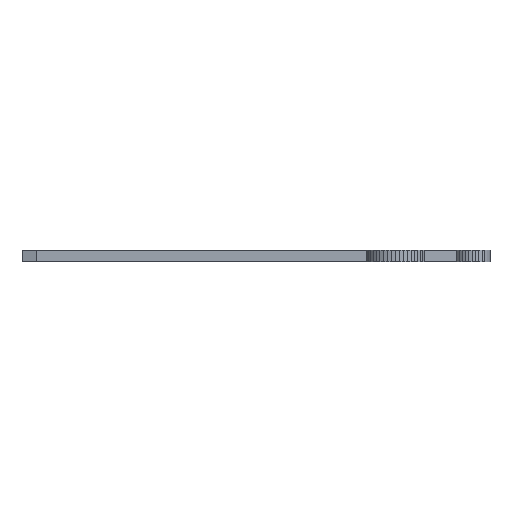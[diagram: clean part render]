
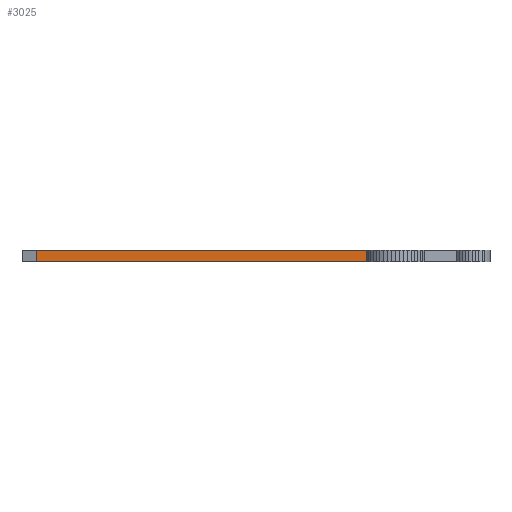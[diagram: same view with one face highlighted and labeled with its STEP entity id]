
A CAD part, left-side view. The second image highlights one B-rep face of the part: STEP entity #3025.
In plain terms, the highlighted planar face has unit normal (-1, 0.021, 0).
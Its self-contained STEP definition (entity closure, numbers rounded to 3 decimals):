
#72 = PLANE('',#73);
#73 = AXIS2_PLACEMENT_3D('',#74,#75,#76);
#74 = CARTESIAN_POINT('',(0.,-2.207,2.4));
#75 = DIRECTION('',(-0.,-0.,-1.));
#76 = DIRECTION('',(-1.,0.,0.));
#126 = PLANE('',#127);
#127 = AXIS2_PLACEMENT_3D('',#128,#129,#130);
#128 = CARTESIAN_POINT('',(0.,-2.207,
    0.));
#129 = DIRECTION('',(-0.,-0.,-1.));
#130 = DIRECTION('',(-1.,0.,0.));
#2917 = PLANE('',#2918);
#2918 = AXIS2_PLACEMENT_3D('',#2919,#2920,#2921);
#2919 = CARTESIAN_POINT('',(-3.25,-23.496,0.));
#2920 = DIRECTION('',(-0.427,0.904,0.));
#2921 = DIRECTION('',(0.904,0.427,0.));
#2955 = VERTEX_POINT('',#2956);
#2956 = CARTESIAN_POINT('',(-2.371,-23.08,2.4));
#2977 = EDGE_CURVE('',#2978,#2955,#2980,.T.);
#2978 = VERTEX_POINT('',#2979);
#2979 = CARTESIAN_POINT('',(-2.371,-23.08,0.));
#2980 = SURFACE_CURVE('',#2981,(#2985,#2992),.PCURVE_S1.);
#2981 = LINE('',#2982,#2983);
#2982 = CARTESIAN_POINT('',(-2.371,-23.08,0.));
#2983 = VECTOR('',#2984,1.);
#2984 = DIRECTION('',(0.,0.,1.));
#2985 = PCURVE('',#2917,#2986);
#2986 = DEFINITIONAL_REPRESENTATION('',(#2987),#2991);
#2987 = LINE('',#2988,#2989);
#2988 = CARTESIAN_POINT('',(0.972,0.));
#2989 = VECTOR('',#2990,1.);
#2990 = DIRECTION('',(0.,-1.));
#2991 = ( GEOMETRIC_REPRESENTATION_CONTEXT(2) 
PARAMETRIC_REPRESENTATION_CONTEXT() REPRESENTATION_CONTEXT('2D SPACE',''
  ) );
#2992 = PCURVE('',#2993,#2998);
#2993 = PLANE('',#2994);
#2994 = AXIS2_PLACEMENT_3D('',#2995,#2996,#2997);
#2995 = CARTESIAN_POINT('',(-2.371,-23.08,0.));
#2996 = DIRECTION('',(-1.,0.021,0.));
#2997 = DIRECTION('',(0.021,1.,0.));
#2998 = DEFINITIONAL_REPRESENTATION('',(#2999),#3003);
#2999 = LINE('',#3000,#3001);
#3000 = CARTESIAN_POINT('',(0.,0.));
#3001 = VECTOR('',#3002,1.);
#3002 = DIRECTION('',(0.,-1.));
#3003 = ( GEOMETRIC_REPRESENTATION_CONTEXT(2) 
PARAMETRIC_REPRESENTATION_CONTEXT() REPRESENTATION_CONTEXT('2D SPACE',''
  ) );
#3025 = ADVANCED_FACE('',(#3026),#2993,.T.);
#3026 = FACE_BOUND('',#3027,.T.);
#3027 = EDGE_LOOP('',(#3028,#3029,#3052,#3080));
#3028 = ORIENTED_EDGE('',*,*,#2977,.T.);
#3029 = ORIENTED_EDGE('',*,*,#3030,.T.);
#3030 = EDGE_CURVE('',#2955,#3031,#3033,.T.);
#3031 = VERTEX_POINT('',#3032);
#3032 = CARTESIAN_POINT('',(-0.9,45.875,2.4));
#3033 = SURFACE_CURVE('',#3034,(#3038,#3045),.PCURVE_S1.);
#3034 = LINE('',#3035,#3036);
#3035 = CARTESIAN_POINT('',(-2.371,-23.08,2.4));
#3036 = VECTOR('',#3037,1.);
#3037 = DIRECTION('',(0.021,1.,0.));
#3038 = PCURVE('',#2993,#3039);
#3039 = DEFINITIONAL_REPRESENTATION('',(#3040),#3044);
#3040 = LINE('',#3041,#3042);
#3041 = CARTESIAN_POINT('',(0.,-2.4));
#3042 = VECTOR('',#3043,1.);
#3043 = DIRECTION('',(1.,0.));
#3044 = ( GEOMETRIC_REPRESENTATION_CONTEXT(2) 
PARAMETRIC_REPRESENTATION_CONTEXT() REPRESENTATION_CONTEXT('2D SPACE',''
  ) );
#3045 = PCURVE('',#72,#3046);
#3046 = DEFINITIONAL_REPRESENTATION('',(#3047),#3051);
#3047 = LINE('',#3048,#3049);
#3048 = CARTESIAN_POINT('',(2.371,-20.874));
#3049 = VECTOR('',#3050,1.);
#3050 = DIRECTION('',(-0.021,1.));
#3051 = ( GEOMETRIC_REPRESENTATION_CONTEXT(2) 
PARAMETRIC_REPRESENTATION_CONTEXT() REPRESENTATION_CONTEXT('2D SPACE',''
  ) );
#3052 = ORIENTED_EDGE('',*,*,#3053,.F.);
#3053 = EDGE_CURVE('',#3054,#3031,#3056,.T.);
#3054 = VERTEX_POINT('',#3055);
#3055 = CARTESIAN_POINT('',(-0.9,45.875,0.));
#3056 = SURFACE_CURVE('',#3057,(#3061,#3068),.PCURVE_S1.);
#3057 = LINE('',#3058,#3059);
#3058 = CARTESIAN_POINT('',(-0.9,45.875,0.));
#3059 = VECTOR('',#3060,1.);
#3060 = DIRECTION('',(0.,0.,1.));
#3061 = PCURVE('',#2993,#3062);
#3062 = DEFINITIONAL_REPRESENTATION('',(#3063),#3067);
#3063 = LINE('',#3064,#3065);
#3064 = CARTESIAN_POINT('',(68.971,0.));
#3065 = VECTOR('',#3066,1.);
#3066 = DIRECTION('',(0.,-1.));
#3067 = ( GEOMETRIC_REPRESENTATION_CONTEXT(2) 
PARAMETRIC_REPRESENTATION_CONTEXT() REPRESENTATION_CONTEXT('2D SPACE',''
  ) );
#3068 = PCURVE('',#3069,#3074);
#3069 = PLANE('',#3070);
#3070 = AXIS2_PLACEMENT_3D('',#3071,#3072,#3073);
#3071 = CARTESIAN_POINT('',(-0.9,45.875,0.));
#3072 = DIRECTION('',(-0.958,0.287,0.));
#3073 = DIRECTION('',(0.287,0.958,0.));
#3074 = DEFINITIONAL_REPRESENTATION('',(#3075),#3079);
#3075 = LINE('',#3076,#3077);
#3076 = CARTESIAN_POINT('',(0.,0.));
#3077 = VECTOR('',#3078,1.);
#3078 = DIRECTION('',(0.,-1.));
#3079 = ( GEOMETRIC_REPRESENTATION_CONTEXT(2) 
PARAMETRIC_REPRESENTATION_CONTEXT() REPRESENTATION_CONTEXT('2D SPACE',''
  ) );
#3080 = ORIENTED_EDGE('',*,*,#3081,.F.);
#3081 = EDGE_CURVE('',#2978,#3054,#3082,.T.);
#3082 = SURFACE_CURVE('',#3083,(#3087,#3094),.PCURVE_S1.);
#3083 = LINE('',#3084,#3085);
#3084 = CARTESIAN_POINT('',(-2.371,-23.08,0.));
#3085 = VECTOR('',#3086,1.);
#3086 = DIRECTION('',(0.021,1.,0.));
#3087 = PCURVE('',#2993,#3088);
#3088 = DEFINITIONAL_REPRESENTATION('',(#3089),#3093);
#3089 = LINE('',#3090,#3091);
#3090 = CARTESIAN_POINT('',(0.,0.));
#3091 = VECTOR('',#3092,1.);
#3092 = DIRECTION('',(1.,0.));
#3093 = ( GEOMETRIC_REPRESENTATION_CONTEXT(2) 
PARAMETRIC_REPRESENTATION_CONTEXT() REPRESENTATION_CONTEXT('2D SPACE',''
  ) );
#3094 = PCURVE('',#126,#3095);
#3095 = DEFINITIONAL_REPRESENTATION('',(#3096),#3100);
#3096 = LINE('',#3097,#3098);
#3097 = CARTESIAN_POINT('',(2.371,-20.874));
#3098 = VECTOR('',#3099,1.);
#3099 = DIRECTION('',(-0.021,1.));
#3100 = ( GEOMETRIC_REPRESENTATION_CONTEXT(2) 
PARAMETRIC_REPRESENTATION_CONTEXT() REPRESENTATION_CONTEXT('2D SPACE',''
  ) );
